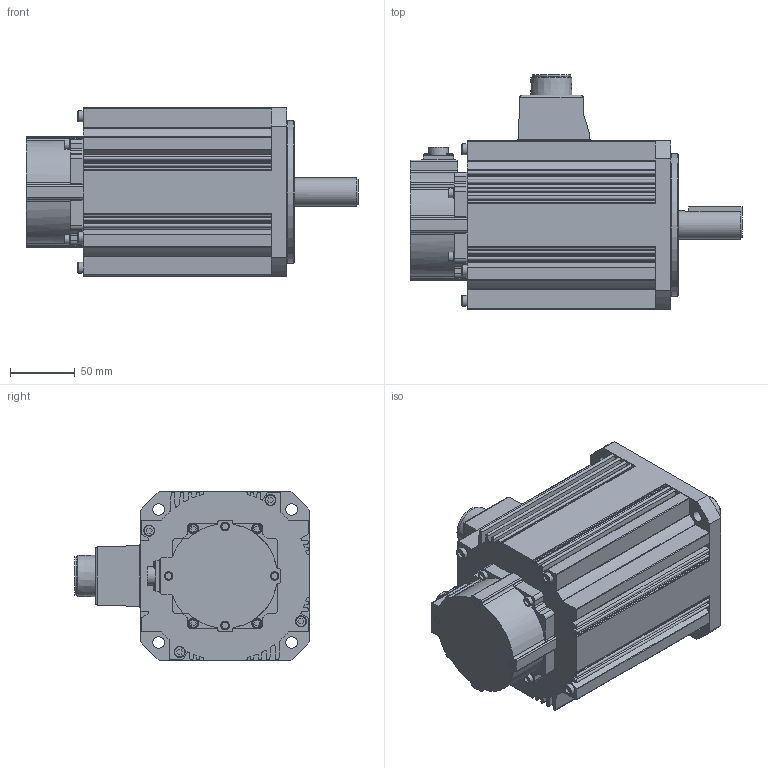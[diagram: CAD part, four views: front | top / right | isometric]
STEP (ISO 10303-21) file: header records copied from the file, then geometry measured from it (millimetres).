
FILE_DESCRIPTION( ( 'STEP AP0' ), '1' );
FILE_NAME( '//expscmdclustefs.cadenas.external/client_exchange/iodir/jobs/output/wkb64903290_no0/STEP/MDME204G1H_2_03.stp', ' ', ( ' ' ), ( ' ' ), 'PSStep 15.0.47', 'PARTsolutions', ' ' );
FILE_SCHEMA( ( 'CONFIG_CONTROL_DESIGN' ) );
Length unit declared in the file: millimetre
Products named in the file (1): HI_MDME204G1H
Bounding box: 256 x 181 x 130 mm (x, y, z)
Volume: 2697369.9 mm3; surface area: 171515.1 mm2
Topology: 1 solids, 1 shells, 544 faces, 1436 edges, 942 vertices
Faces by surface type: plane 281, cylinder 224, cone 18, torus 17, sphere 4
Full cylindrical faces by diameter (mm): 2.459 x1, 5.5 x4, 6.5 x4, 7 x4, 8.5 x4, 9 x4, 10.1 x4, 10.5 x4, 14.8 x1, 22 x1, 29.74 x1, 34 x1, 38 x1, 45 x1, 102 x1, 110 x1
Entity records: 16723 total; most frequent: CARTESIAN_POINT 3121, DIRECTION 2901, ORIENTED_EDGE 2708, EDGE_CURVE 1354, AXIS2_PLACEMENT_3D 1037, VERTEX_POINT 935, LINE 827, VECTOR 827
